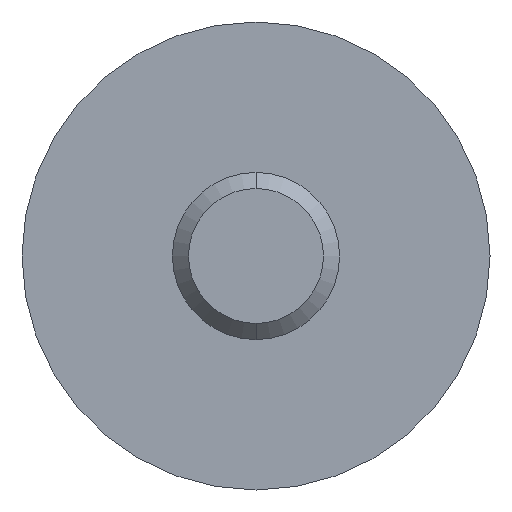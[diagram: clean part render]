
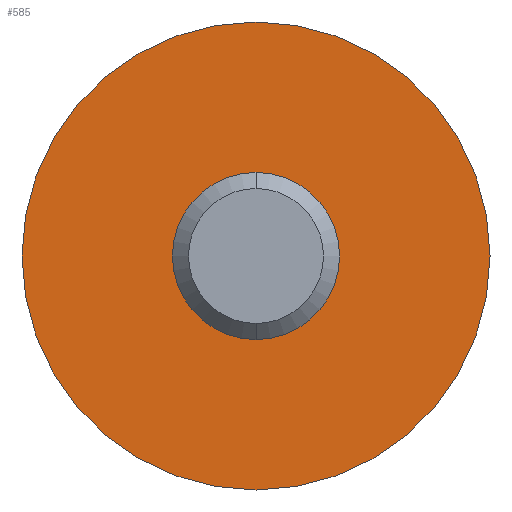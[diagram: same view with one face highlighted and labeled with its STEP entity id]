
A CAD part, front view. The second image highlights one B-rep face of the part: STEP entity #585.
In plain terms, the highlighted planar face has unit normal (0, -1, 0).
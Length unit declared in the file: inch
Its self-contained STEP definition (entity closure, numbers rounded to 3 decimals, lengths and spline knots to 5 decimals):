
#1 = EDGE_CURVE ( 'NONE', #419, #438, #691, .T. ) ;
#2 = EDGE_CURVE ( 'NONE', #428, #435, #677, .T. ) ;
#118 = DIRECTION ( 'NONE',  ( 0., 0., 1. ) ) ;
#119 = DIRECTION ( 'NONE',  ( 0., 1., 0. ) ) ;
#120 = CARTESIAN_POINT ( 'NONE',  ( 0., 0., 0. ) ) ;
#148 = DIRECTION ( 'NONE',  ( 0., 0., 1. ) ) ;
#149 = DIRECTION ( 'NONE',  ( 0., -1., 0. ) ) ;
#150 = CARTESIAN_POINT ( 'NONE',  ( 0., 0., 0. ) ) ;
#250 = CIRCLE ( 'NONE', #257, 0.4375 ) ;
#257 = AXIS2_PLACEMENT_3D ( 'NONE', #120, #119, #118 ) ;
#342 = DIRECTION ( 'NONE',  ( 0., 0., 1. ) ) ;
#344 = PLANE ( 'NONE',  #666 ) ;
#345 = FACE_BOUND ( 'NONE', #459, .T. ) ;
#347 = CARTESIAN_POINT ( 'NONE',  ( 0., 0., 0. ) ) ;
#349 = DIRECTION ( 'NONE',  ( 0., 1., 0. ) ) ;
#352 = FACE_OUTER_BOUND ( 'NONE', #450, .T. ) ;
#369 = CARTESIAN_POINT ( 'NONE',  ( 0., 0., 0.4375 ) ) ;
#372 = CARTESIAN_POINT ( 'NONE',  ( 0., 0., -0.15625 ) ) ;
#379 = CARTESIAN_POINT ( 'NONE',  ( 0., 0., 0.15625 ) ) ;
#400 = CARTESIAN_POINT ( 'NONE',  ( 0., 0., -0.4375 ) ) ;
#410 = DIRECTION ( 'NONE',  ( 0., 0., 1. ) ) ;
#411 = DIRECTION ( 'NONE',  ( 0., -1., 0. ) ) ;
#412 = CARTESIAN_POINT ( 'NONE',  ( 0., 0., 0. ) ) ;
#414 = DIRECTION ( 'NONE',  ( 0., 0., 1. ) ) ;
#415 = DIRECTION ( 'NONE',  ( 0., 1., 0. ) ) ;
#416 = CARTESIAN_POINT ( 'NONE',  ( 0., 0., 0. ) ) ;
#419 = VERTEX_POINT ( 'NONE', #400 ) ;
#428 = VERTEX_POINT ( 'NONE', #379 ) ;
#435 = VERTEX_POINT ( 'NONE', #372 ) ;
#438 = VERTEX_POINT ( 'NONE', #369 ) ;
#450 = EDGE_LOOP ( 'NONE', ( #519, #478 ) ) ;
#459 = EDGE_LOOP ( 'NONE', ( #498, #477 ) ) ;
#477 = ORIENTED_EDGE ( 'NONE', *, *, #618, .F. ) ;
#478 = ORIENTED_EDGE ( 'NONE', *, *, #625, .F. ) ;
#498 = ORIENTED_EDGE ( 'NONE', *, *, #2, .F. ) ;
#519 = ORIENTED_EDGE ( 'NONE', *, *, #1, .F. ) ;
#585 = ADVANCED_FACE ( 'NONE', ( #352, #345 ), #344, .F. ) ;
#618 = EDGE_CURVE ( 'NONE', #435, #428, #702, .T. ) ;
#625 = EDGE_CURVE ( 'NONE', #438, #419, #250, .T. ) ;
#666 = AXIS2_PLACEMENT_3D ( 'NONE', #347, #349, #342 ) ;
#674 = AXIS2_PLACEMENT_3D ( 'NONE', #412, #411, #410 ) ;
#676 = AXIS2_PLACEMENT_3D ( 'NONE', #150, #149, #148 ) ;
#677 = CIRCLE ( 'NONE', #674, 0.15625 ) ;
#688 = AXIS2_PLACEMENT_3D ( 'NONE', #416, #415, #414 ) ;
#691 = CIRCLE ( 'NONE', #688, 0.4375 ) ;
#702 = CIRCLE ( 'NONE', #676, 0.15625 ) ;
